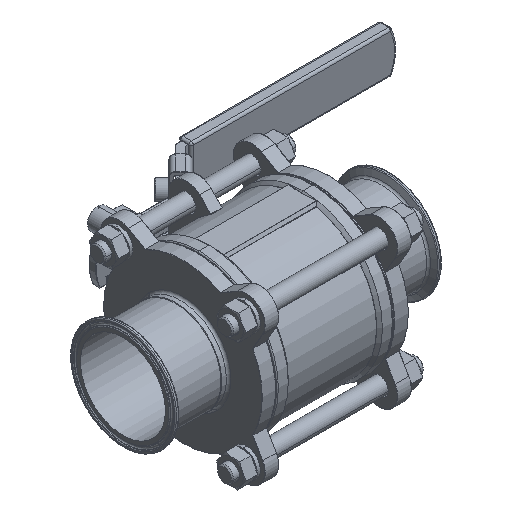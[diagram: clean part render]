
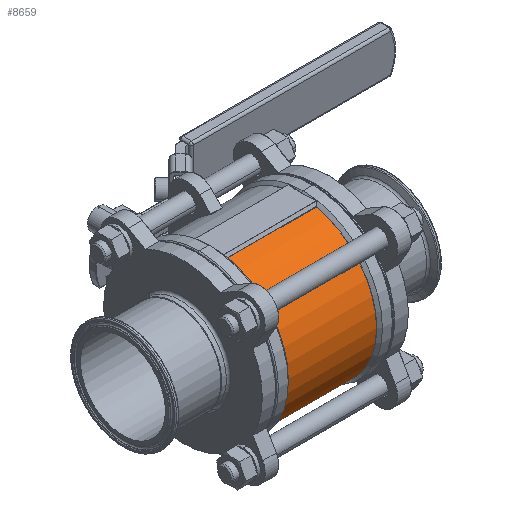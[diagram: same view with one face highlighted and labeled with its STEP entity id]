
A CAD part, isometric view. The second image highlights one B-rep face of the part: STEP entity #8659.
In plain terms, the highlighted cylindrical face has radius 65.75 mm (diameter 131.5 mm), a partial arc.
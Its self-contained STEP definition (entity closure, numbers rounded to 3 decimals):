
#37 = CARTESIAN_POINT ( 'NONE',  ( 37.917, 0., 0. ) ) ;
#1351 = AXIS2_PLACEMENT_3D ( 'NONE', #37, #1955, #16487 ) ;
#1782 = LINE ( 'NONE', #11961, #5289 ) ;
#1955 = DIRECTION ( 'NONE',  ( -1., 0., 0. ) ) ;
#2507 = ORIENTED_EDGE ( 'NONE', *, *, #14917, .T. ) ;
#2513 = CIRCLE ( 'NONE', #18331, 65.75 ) ;
#3707 = EDGE_CURVE ( 'NONE', #8166, #25013, #2513, .T. ) ;
#5135 = DIRECTION ( 'NONE',  ( 1., 0., 0. ) ) ;
#5289 = VECTOR ( 'NONE', #14502, 1000. ) ;
#5777 = EDGE_CURVE ( 'NONE', #6305, #25077, #9251, .T. ) ;
#6305 = VERTEX_POINT ( 'NONE', #26154 ) ;
#8166 = VERTEX_POINT ( 'NONE', #8737 ) ;
#8659 = ADVANCED_FACE ( 'NONE', ( #20506 ), #18556, .T. ) ;
#8680 = CARTESIAN_POINT ( 'NONE',  ( 37.917, -13.747, 64.297 ) ) ;
#8737 = CARTESIAN_POINT ( 'NONE',  ( -37.917, -13.747, 64.297 ) ) ;
#9251 = CIRCLE ( 'NONE', #1351, 65.75 ) ;
#9296 = DIRECTION ( 'NONE',  ( 1., 0., 0. ) ) ;
#10845 = CARTESIAN_POINT ( 'NONE',  ( -37.917, 0., 0. ) ) ;
#11738 = VECTOR ( 'NONE', #17041, 1000. ) ;
#11961 = CARTESIAN_POINT ( 'NONE',  ( 24.418, -13.747, 64.297 ) ) ;
#13834 = ORIENTED_EDGE ( 'NONE', *, *, #3707, .T. ) ;
#14502 = DIRECTION ( 'NONE',  ( -1., 0., 0. ) ) ;
#14917 = EDGE_CURVE ( 'NONE', #25013, #6305, #15631, .T. ) ;
#15194 = CARTESIAN_POINT ( 'NONE',  ( 24.418, -13.747, -64.297 ) ) ;
#15631 = LINE ( 'NONE', #15194, #11738 ) ;
#16487 = DIRECTION ( 'NONE',  ( 0., 0., -1. ) ) ;
#17041 = DIRECTION ( 'NONE',  ( 1., 0., 0. ) ) ;
#17693 = CARTESIAN_POINT ( 'NONE',  ( 24.418, 0., 0. ) ) ;
#18020 = EDGE_CURVE ( 'NONE', #25077, #8166, #1782, .T. ) ;
#18331 = AXIS2_PLACEMENT_3D ( 'NONE', #10845, #9296, #19659 ) ;
#18556 = CYLINDRICAL_SURFACE ( 'NONE', #26197, 65.75 ) ;
#19659 = DIRECTION ( 'NONE',  ( 0., 0., -1. ) ) ;
#20506 = FACE_OUTER_BOUND ( 'NONE', #21469, .T. ) ;
#21469 = EDGE_LOOP ( 'NONE', ( #21557, #13834, #2507, #22294 ) ) ;
#21557 = ORIENTED_EDGE ( 'NONE', *, *, #18020, .T. ) ;
#21834 = DIRECTION ( 'NONE',  ( 0., 0., -1. ) ) ;
#22294 = ORIENTED_EDGE ( 'NONE', *, *, #5777, .T. ) ;
#24526 = CARTESIAN_POINT ( 'NONE',  ( -37.917, -13.747, -64.297 ) ) ;
#25013 = VERTEX_POINT ( 'NONE', #24526 ) ;
#25077 = VERTEX_POINT ( 'NONE', #8680 ) ;
#26154 = CARTESIAN_POINT ( 'NONE',  ( 37.917, -13.747, -64.297 ) ) ;
#26197 = AXIS2_PLACEMENT_3D ( 'NONE', #17693, #5135, #21834 ) ;
